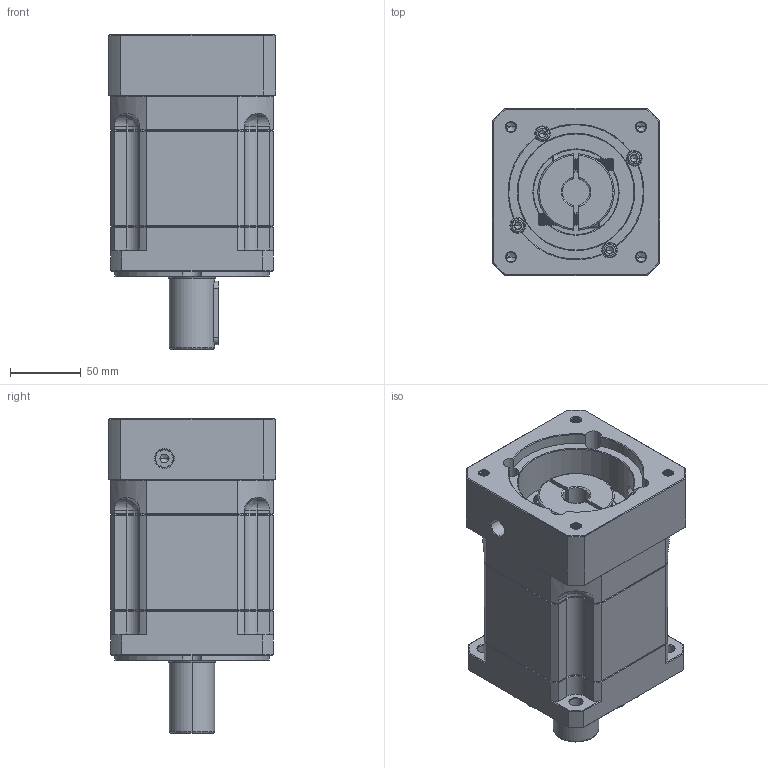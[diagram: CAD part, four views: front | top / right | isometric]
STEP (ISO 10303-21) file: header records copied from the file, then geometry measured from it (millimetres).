
FILE_DESCRIPTION (( 'STEP AP214' ), '1' );
FILE_NAME ('ZB115A-D32-L2-19-95-130-M8.step', '2023-03-02T09:00:56', ( '' ), ( 'Microsoft' ), 'SwSTEP 2.0', 'SolidWorks 2016', '' );
FILE_SCHEMA (( 'AUTOMOTIVE_DESIGN' ));
Length unit declared in the file: millimetre
Products named in the file (1): ZB115A-D32-L2-19-95-130-M8
Bounding box: 118 x 118 x 222 mm (x, y, z)
Volume: 1909842.4 mm3; surface area: 182565.2 mm2
Topology: 6 solids, 6 shells, 2125 faces, 5503 edges, 3469 vertices
Faces by surface type: plane 964, cylinder 444, cone 372, bspline 325, torus 20
Entity records: 113959 total; most frequent: CARTESIAN_POINT 41597, ORIENTED_EDGE 10938, DIRECTION 8980, EDGE_CURVE 5469, VERTEX_POINT 3469, VECTOR 3382, LINE 3382, AXIS2_PLACEMENT_3D 2799
